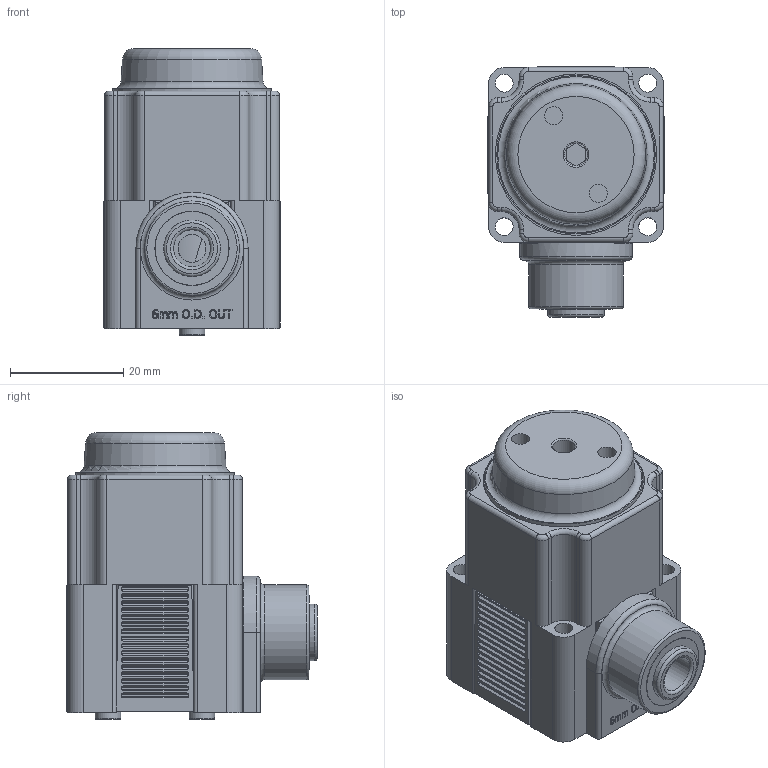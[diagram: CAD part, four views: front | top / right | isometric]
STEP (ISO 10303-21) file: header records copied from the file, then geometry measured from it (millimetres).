
FILE_DESCRIPTION(/* description */ (''),/* implementation_level */ '2;1');
FILE_NAME(/* name */ 'K:\Normteile INVENTOR\Air-Logic\Regulators\PR6000\PR 6___ 8 Push-In Fitting for 6mm O.D. Tube Out.igs.ipt.stp',/* time_stamp */ '2020-05-27T10:53:15+02:00',/* author */ ('Paul'),/* organization */ (''),/* preprocessor_version */ 'ST-DEVELOPER v18',/* originating_system */ 'Autodesk Inventor 2020',/* authorisation */ '');
FILE_SCHEMA (('AUTOMOTIVE_DESIGN { 1 0 10303 214 3 1 1 }'));
Length unit declared in the file: inch
Products named in the file (1): PR 6___ 8 Push-In Fitting for 6mm O.D. Tube Out.igs
Bounding box: 31.19 x 44.31 x 50.78 mm (x, y, z)
Volume: 41765 mm3; surface area: 14838.9 mm2
Topology: 1 solids, 1 shells, 813 faces, 2115 edges, 1395 vertices
Faces by surface type: plane 395, cylinder 274, bspline 107, torus 34, cone 3
Full cylindrical faces by diameter (mm): 1.194 x1, 2.032 x1, 3.124 x2, 3.175 x8, 3.226 x2, 4.013 x1, 4.521 x2, 4.953 x1, 6.553 x1, 8.382 x2, 9.169 x1, 9.398 x1, 10.033 x1, 12.903 x1, 13.081 x1, 13.157 x1, 16.764 x1, 25.781 x1, 28.047 x1, 28.575 x1
Entity records: 29271 total; most frequent: CARTESIAN_POINT 8522, ORIENTED_EDGE 4230, DIRECTION 4055, EDGE_CURVE 2115, AXIS2_PLACEMENT_3D 1538, VERTEX_POINT 1395, LINE 979, VECTOR 979
